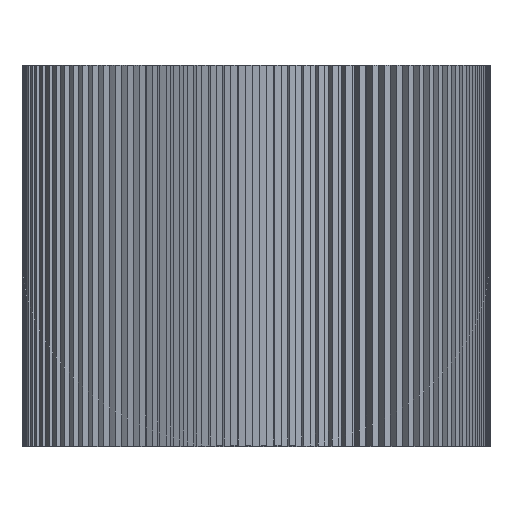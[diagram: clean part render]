
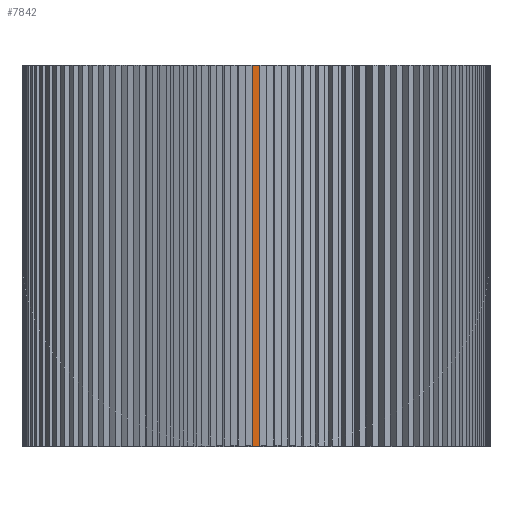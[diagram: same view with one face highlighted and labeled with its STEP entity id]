
A CAD part, top view. The second image highlights one B-rep face of the part: STEP entity #7842.
In plain terms, the highlighted planar face has unit normal (0, 0, 1).
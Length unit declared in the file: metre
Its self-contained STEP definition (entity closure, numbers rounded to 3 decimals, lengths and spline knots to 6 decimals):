
#411=LINE('',#11869,#1411);
#415=LINE('',#11884,#1415);
#716=LINE('',#12683,#1716);
#717=LINE('',#12685,#1717);
#1411=VECTOR('',#9360,1.);
#1415=VECTOR('',#9372,1.);
#1716=VECTOR('',#9877,1.);
#1717=VECTOR('',#9880,1.);
#2927=ORIENTED_EDGE('',*,*,#4915,.F.);
#2928=ORIENTED_EDGE('',*,*,#5323,.T.);
#2929=ORIENTED_EDGE('',*,*,#4922,.F.);
#2930=ORIENTED_EDGE('',*,*,#5322,.F.);
#4915=EDGE_CURVE('',#6117,#6118,#411,.T.);
#4922=EDGE_CURVE('',#6124,#6125,#415,.T.);
#5322=EDGE_CURVE('',#6118,#6124,#716,.T.);
#5323=EDGE_CURVE('',#6117,#6125,#717,.T.);
#6117=VERTEX_POINT('',#11868);
#6118=VERTEX_POINT('',#11870);
#6124=VERTEX_POINT('',#11883);
#6125=VERTEX_POINT('',#11885);
#6730=EDGE_LOOP('',(#2927,#2928,#2929,#2930));
#7136=FACE_BOUND('',#6730,.T.);
#7539=PLANE('',#8460);
#7842=ADVANCED_FACE('',(#7136),#7539,.T.);
#8460=AXIS2_PLACEMENT_3D('',#12684,#9878,#9879);
#9360=DIRECTION('',(-1.,0.,0.));
#9372=DIRECTION('',(1.,0.,0.));
#9877=DIRECTION('',(0.,1.,0.));
#9878=DIRECTION('',(0.,0.,1.));
#9879=DIRECTION('',(1.,0.,0.));
#9880=DIRECTION('',(0.,1.,0.));
#11868=CARTESIAN_POINT('',(0.00025,0.,0.014));
#11869=CARTESIAN_POINT('',(0.00025,0.,0.014));
#11870=CARTESIAN_POINT('',(-0.00025,0.,0.014));
#11883=CARTESIAN_POINT('',(-0.00025,0.024,0.014));
#11884=CARTESIAN_POINT('',(0.00025,0.024,0.014));
#11885=CARTESIAN_POINT('',(0.00025,0.024,0.014));
#12683=CARTESIAN_POINT('',(-0.00025,0.,0.014));
#12684=CARTESIAN_POINT('',(-0.00025,0.,0.014));
#12685=CARTESIAN_POINT('',(0.00025,0.,0.014));
